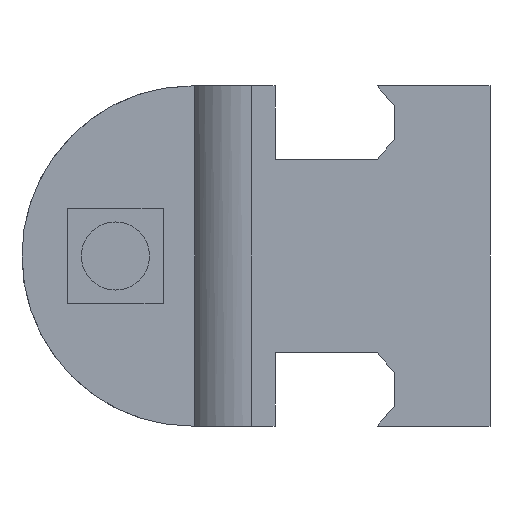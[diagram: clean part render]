
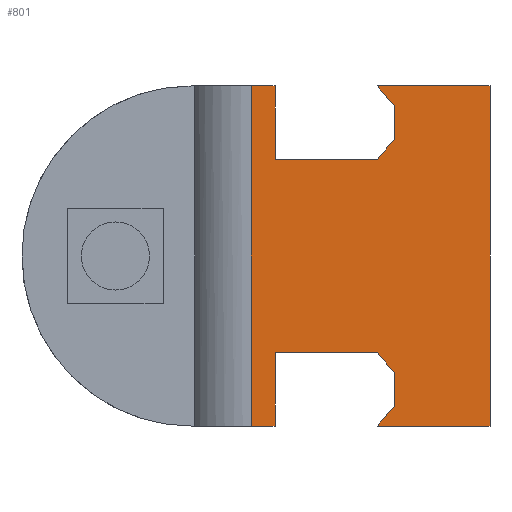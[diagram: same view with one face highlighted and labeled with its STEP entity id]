
A CAD part, front view. The second image highlights one B-rep face of the part: STEP entity #801.
In plain terms, the highlighted planar face has unit normal (0, -1, 0).
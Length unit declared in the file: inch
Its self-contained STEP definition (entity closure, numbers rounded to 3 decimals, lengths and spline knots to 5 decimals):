
#355=EDGE_CURVE('',#913,#914,#915,.T.);
#357=EDGE_CURVE('',#917,#918,#919,.T.);
#421=EDGE_CURVE('',#880,#1019,#1020,.T.);
#441=EDGE_CURVE('',#914,#1049,#1050,.T.);
#443=EDGE_CURVE('',#1052,#917,#1053,.T.);
#469=EDGE_CURVE('',#984,#1093,#1094,.T.);
#485=EDGE_CURVE('',#880,#1116,#1117,.T.);
#513=EDGE_CURVE('',#918,#1160,#1161,.T.);
#563=EDGE_CURVE('',#1049,#1142,#1229,.T.);
#575=EDGE_CURVE('',#1246,#1247,#1248,.T.);
#663=EDGE_CURVE('',#1247,#1231,#1353,.T.);
#697=EDGE_CURVE('',#1093,#913,#1391,.T.);
#705=EDGE_CURVE('',#1160,#1246,#1401,.T.);
#723=EDGE_CURVE('',#1231,#1116,#1420,.T.);
#745=EDGE_CURVE('',#1142,#1052,#1444,.T.);
#797=EDGE_CURVE('',#1019,#984,#1504,.T.);
#801=ADVANCED_FACE('',(#1508),#1509,.T.);
#880=VERTEX_POINT('',#1625);
#913=VERTEX_POINT('',#1671);
#914=VERTEX_POINT('',#1672);
#915=LINE('',#1673,#1674);
#917=VERTEX_POINT('',#1677);
#918=VERTEX_POINT('',#1678);
#919=LINE('',#1679,#1680);
#984=VERTEX_POINT('',#1857);
#1019=VERTEX_POINT('',#1947);
#1020=LINE('',#1948,#1949);
#1049=VERTEX_POINT('',#2129);
#1050=LINE('',#2130,#2131);
#1052=VERTEX_POINT('',#2134);
#1053=LINE('',#2135,#2136);
#1093=VERTEX_POINT('',#2262);
#1094=LINE('',#2263,#2264);
#1116=VERTEX_POINT('',#2307);
#1117=LINE('',#2308,#2309);
#1142=VERTEX_POINT('',#2349);
#1160=VERTEX_POINT('',#2389);
#1161=LINE('',#2390,#2391);
#1229=LINE('',#2513,#2514);
#1231=VERTEX_POINT('',#2517);
#1246=VERTEX_POINT('',#2548);
#1247=VERTEX_POINT('',#2549);
#1248=LINE('',#2550,#2551);
#1353=LINE('',#2840,#2841);
#1391=LINE('',#2936,#2937);
#1401=LINE('',#2957,#2958);
#1420=LINE('',#2994,#2995);
#1444=LINE('',#3045,#3046);
#1504=LINE('',#3195,#3196);
#1508=FACE_OUTER_BOUND('',#3202,.T.);
#1509=PLANE('',#3203);
#1625=CARTESIAN_POINT('',(0.67346,0.54266,0.00009));
#1671=CARTESIAN_POINT('',(1.19836,0.54266,0.19755));
#1672=CARTESIAN_POINT('',(1.19836,0.54266,0.07259));
#1673=CARTESIAN_POINT('',(1.19836,0.54266,0.06754));
#1674=VECTOR('',#3312,1.0);
#1677=CARTESIAN_POINT('',(1.13589,0.54266,1.24989));
#1678=CARTESIAN_POINT('',(1.19836,0.54266,1.1774));
#1679=CARTESIAN_POINT('',(1.45544,0.54266,0.87907));
#1680=VECTOR('',#3313,1.0);
#1857=CARTESIAN_POINT('',(0.76094,0.54266,0.27005));
#1947=CARTESIAN_POINT('',(0.76094,0.54266,0.00009));
#1948=CARTESIAN_POINT('',(0.8603,0.54266,0.00009));
#1949=VECTOR('',#3424,1.0);
#2129=CARTESIAN_POINT('',(1.13589,0.54266,0.00009));
#2130=CARTESIAN_POINT('',(1.14638,0.54266,0.01226));
#2131=VECTOR('',#3466,1.0);
#2134=CARTESIAN_POINT('',(1.55036,0.54266,1.24989));
#2135=CARTESIAN_POINT('',(1.24138,0.54266,1.24989));
#2136=VECTOR('',#3467,1.0);
#2262=CARTESIAN_POINT('',(1.13589,0.54266,0.27005));
#2263=CARTESIAN_POINT('',(1.03016,0.54266,0.27005));
#2264=VECTOR('',#3515,1.0);
#2307=CARTESIAN_POINT('',(0.67346,0.54266,1.24989));
#2308=CARTESIAN_POINT('',(0.67346,0.54266,0.0));
#2309=VECTOR('',#3553,1.0);
#2349=CARTESIAN_POINT('',(1.55036,0.54266,0.00009));
#2389=CARTESIAN_POINT('',(1.19836,0.54266,1.05244));
#2390=CARTESIAN_POINT('',(1.19836,0.54266,0.55746));
#2391=VECTOR('',#3572,1.0);
#2513=CARTESIAN_POINT('',(1.24138,0.54266,0.00009));
#2514=VECTOR('',#3660,1.0);
#2517=CARTESIAN_POINT('',(0.76094,0.54266,1.24989));
#2548=CARTESIAN_POINT('',(1.13589,0.54266,0.97994));
#2549=CARTESIAN_POINT('',(0.76094,0.54266,0.97994));
#2550=CARTESIAN_POINT('',(1.03016,0.54266,0.97994));
#2551=VECTOR('',#3682,1.0);
#2840=CARTESIAN_POINT('',(0.76094,0.54266,0.55746));
#2841=VECTOR('',#3785,1.0);
#2936=CARTESIAN_POINT('',(1.21317,0.54266,0.18037));
#2937=VECTOR('',#3817,1.0);
#2957=CARTESIAN_POINT('',(0.9041,0.54266,0.71096));
#2958=VECTOR('',#3832,1.0);
#2994=CARTESIAN_POINT('',(0.8603,0.54266,1.24989));
#2995=VECTOR('',#3847,1.0);
#3045=CARTESIAN_POINT('',(1.55036,0.54266,0.0));
#3046=VECTOR('',#3868,1.0);
#3195=CARTESIAN_POINT('',(0.76094,0.54266,0.06754));
#3196=VECTOR('',#3938,1.0);
#3202=EDGE_LOOP('',(#3941,#3942,#3943,#3944,#3945,#3946,#3947,#3948,#3949,#3950,#3951,#3952,#3953,#3954,#3955,#3956));
#3203=AXIS2_PLACEMENT_3D('',#3957,#3958,#3959);
#3312=DIRECTION('',(0.0,-0.0,-1.0));
#3313=DIRECTION('',(0.653,-0.0,-0.758));
#3424=DIRECTION('',(1.0,0.0,0.0));
#3466=DIRECTION('',(-0.653,0.0,-0.758));
#3467=DIRECTION('',(-1.0,0.0,0.0));
#3515=DIRECTION('',(1.0,0.0,0.0));
#3553=DIRECTION('',(0.0,0.0,1.0));
#3572=DIRECTION('',(0.0,-0.0,-1.0));
#3660=DIRECTION('',(1.0,0.0,0.0));
#3682=DIRECTION('',(-1.0,0.0,0.0));
#3785=DIRECTION('',(0.0,0.0,1.0));
#3817=DIRECTION('',(0.653,-0.0,-0.758));
#3832=DIRECTION('',(-0.653,0.0,-0.758));
#3847=DIRECTION('',(-1.0,0.0,0.0));
#3868=DIRECTION('',(0.0,0.0,1.0));
#3938=DIRECTION('',(0.0,0.0,1.0));
#3941=ORIENTED_EDGE('',*,*,#443,.T.);
#3942=ORIENTED_EDGE('',*,*,#357,.T.);
#3943=ORIENTED_EDGE('',*,*,#513,.T.);
#3944=ORIENTED_EDGE('',*,*,#705,.T.);
#3945=ORIENTED_EDGE('',*,*,#575,.T.);
#3946=ORIENTED_EDGE('',*,*,#663,.T.);
#3947=ORIENTED_EDGE('',*,*,#723,.T.);
#3948=ORIENTED_EDGE('',*,*,#485,.F.);
#3949=ORIENTED_EDGE('',*,*,#421,.T.);
#3950=ORIENTED_EDGE('',*,*,#797,.T.);
#3951=ORIENTED_EDGE('',*,*,#469,.T.);
#3952=ORIENTED_EDGE('',*,*,#697,.T.);
#3953=ORIENTED_EDGE('',*,*,#355,.T.);
#3954=ORIENTED_EDGE('',*,*,#441,.T.);
#3955=ORIENTED_EDGE('',*,*,#563,.T.);
#3956=ORIENTED_EDGE('',*,*,#745,.T.);
#3957=CARTESIAN_POINT('',(1.11191,0.54266,0.0));
#3958=DIRECTION('',(0.0,-1.0,0.0));
#3959=DIRECTION('',(1.0,0.0,-0.0));
